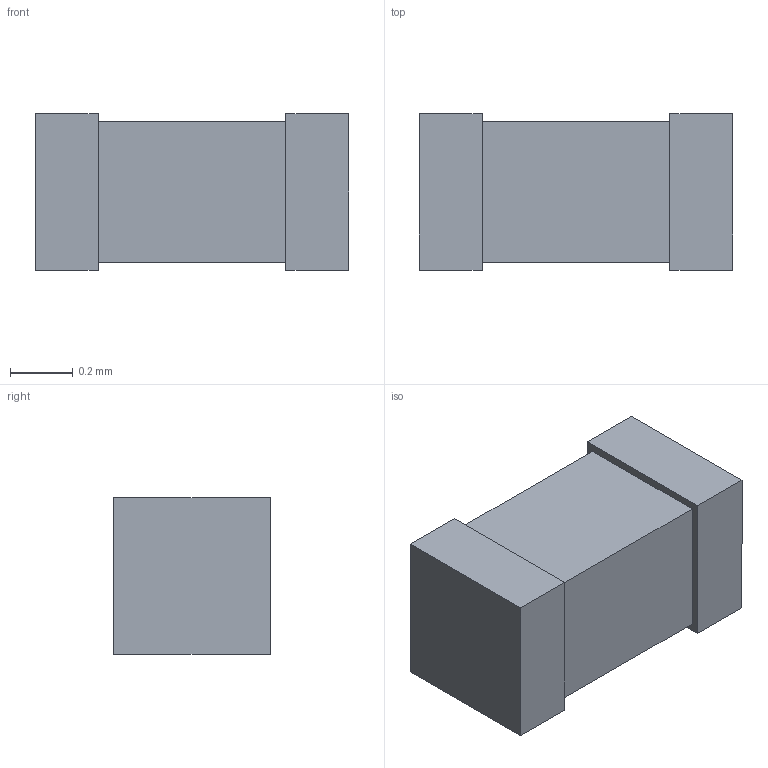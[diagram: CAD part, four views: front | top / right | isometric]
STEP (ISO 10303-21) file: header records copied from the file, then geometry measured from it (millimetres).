
FILE_DESCRIPTION (( 'STEP AP214' ), '1' );
FILE_NAME ('CC0402KRX7R7BB104.STEP', '2023-03-09T10:25:10', ( '' ), ( '' ), 'SwSTEP 2.0', 'SolidWorks 2019', '' );
FILE_SCHEMA (( 'AUTOMOTIVE_DESIGN' ));
Length unit declared in the file: millimetre
Products named in the file (1): CC0402KRX7R7BB104
Bounding box: 1 x 0.5 x 0.5 mm (x, y, z)
Volume: 0.2 mm3; surface area: 2.5 mm2
Topology: 1 solids, 1 shells, 16 faces, 36 edges, 24 vertices
Faces by surface type: plane 16
Entity records: 474 total; most frequent: CARTESIAN_POINT 77, ORIENTED_EDGE 72, DIRECTION 70, VECTOR 36, EDGE_CURVE 36, LINE 36, VERTEX_POINT 24, EDGE_LOOP 18
